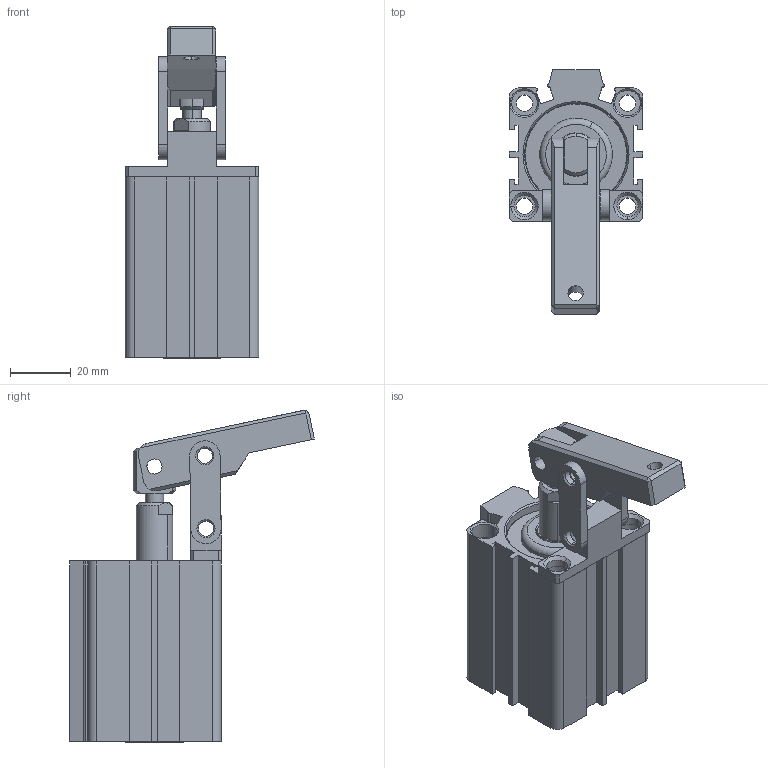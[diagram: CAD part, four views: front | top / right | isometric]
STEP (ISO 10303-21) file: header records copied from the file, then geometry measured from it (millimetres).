
FILE_DESCRIPTION (( 'STEP AP214' ), '1' );
FILE_NAME ('MSA_32.STEP', '2018-12-10T08:44:13', ( '' ), ( '' ), 'SwSTEP 2.0', 'SolidWorks 2018', '' );
FILE_SCHEMA (( 'AUTOMOTIVE_DESIGN' ));
Length unit declared in the file: millimetre
Products named in the file (13): SDA32ONKAPAKDINCPLASTIK; MSA_32; MSA32_KLEMP3; MSA32_KLEMP1; SDA32_25; basic internal retaining ring_am_B27.7M - 3BM1-28; SDA32ARKKAPAK; MSA32_KLEMP4; Kastas Seals-KO-30X1_5; SDA32_25_MIL; KASTAS-K52-12X16_5X3_6-4_8; SDA32_25_BORU; MSA32_KLEMP2
Assembly tree (15 placements, depth 3):
  MSA_32
    SDA32_25
      SDA32_25_BORU
      SDA32ONKAPAKDINCPLASTIK
      KASTAS-K52-12X16_5X3_6-4_8
      SDA32ARKKAPAK
      Kastas Seals-KO-30X1_5  x2
      SDA32_25_MIL
      basic internal retaining ring_am_B27.7M - 3BM1-28  x2
    MSA32_KLEMP1
    MSA32_KLEMP2
    MSA32_KLEMP4
    MSA32_KLEMP3  x2
Bounding box: 44 x 80.76 x 109.59 mm (x, y, z)
Volume: 82883.9 mm3; surface area: 48816.3 mm2
Topology: 14 solids, 15 shells, 436 faces, 1045 edges, 657 vertices
Faces by surface type: cylinder 164, plane 148, cone 108, bspline 12, torus 4
Entity records: 12478 total; most frequent: CARTESIAN_POINT 2321, DIRECTION 2130, ORIENTED_EDGE 1886, EDGE_CURVE 943, AXIS2_PLACEMENT_3D 816, VERTEX_POINT 593, LINE 498, VECTOR 498
